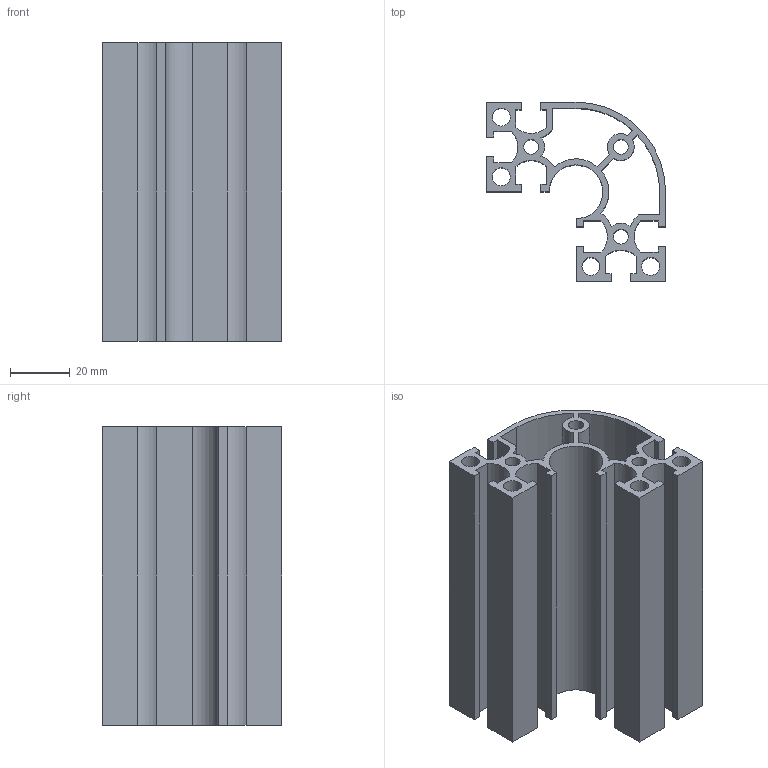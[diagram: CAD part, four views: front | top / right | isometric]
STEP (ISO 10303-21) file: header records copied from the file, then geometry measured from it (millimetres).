
FILE_DESCRIPTION(/* description */ ('Unknown'),/* implementation_level */ '2;1');
FILE_NAME(/* name */ 'NM6630R',/* time_stamp */ '2026-08-31T11:21:29+08:00',/* author */ ('Unknown'),/* organization */ ('Unknown'),/* preprocessor_version */ 'ST-DEVELOPER v16.7',/* originating_system */ 'DEX',/* authorisation */ $);
FILE_SCHEMA (('AUTOMOTIVE_DESIGN {1 0 10303 214 3 1 1}'));
Length unit declared in the file: millimetre
Products named in the file (1): 6630R-
Bounding box: 60 x 60 x 100 mm (x, y, z)
Volume: 80893.1 mm3; surface area: 72381.6 mm2
Topology: 1 solids, 1 shells, 85 faces, 249 edges, 166 vertices
Faces by surface type: plane 58, cylinder 27
Full cylindrical faces by diameter (mm): 5 x3, 6 x4
Entity records: 2848 total; most frequent: CARTESIAN_POINT 494, ORIENTED_EDGE 484, DIRECTION 468, EDGE_CURVE 242, LINE 188, VECTOR 188, VERTEX_POINT 166, AXIS2_PLACEMENT_3D 140
